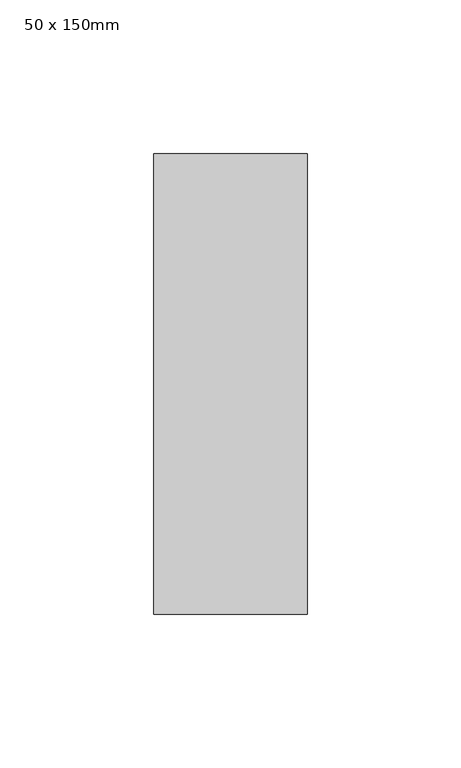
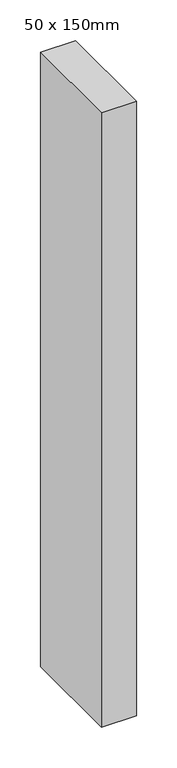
"""IFC4 building model written with IfcOpenShell, lengths in millimetres: member geometry, 矩形竖梃 : 50 x 150mm."""

from ifc_helpers import new_model, si_unit, frame, origin, place, context, project, spatial, polyline, outline, extrude, source, transform, mapped, element, save


def member_50_x_150mm_479bf81d(model_context):
    return source(origin(), model_context, "Body", "SweptSolid", [
        extrude(outline(polyline([(0.0, 75.0), (0.0, -75.0), (-50.0, -75.0), (-50.0, 75.0), (0.0, 75.0)])), frame((0.0, 0.0, -924.0), z_axis=(0.0, 0.0, 1.0), x_axis=(1.0, 0.0, 0.0)), (0.0, 0.0, 1.0), 924.0),
    ])


if __name__ == "__main__":
    model = new_model("IFC4")
    model_context = context("Model", 3, world=origin())
    ifc_project = project(units=[si_unit("LENGTHUNIT", "METRE", prefix="MILLI")], contexts=[model_context])
    site = spatial("IfcSite", under=ifc_project)
    building = spatial("IfcBuilding", under=site)
    placement = place(None, origin())
    member_50_x_150mm_shape = member_50_x_150mm_479bf81d(model_context)
    element("IfcMember", 1, ObjectType="矩形竖梃 : 50 x 150mm", at=placement, inside=building, context=model_context, shape_type="MappedRepresentation", body=[
        mapped(member_50_x_150mm_shape, transform((0.0, 0.0, 0.0), x_axis=(1.0, 0.0, 0.0), y_axis=(0.0, 1.0, 0.0), z_axis=(0.0, 0.0, 1.0))),
    ])
    save(model, "model.ifc")
